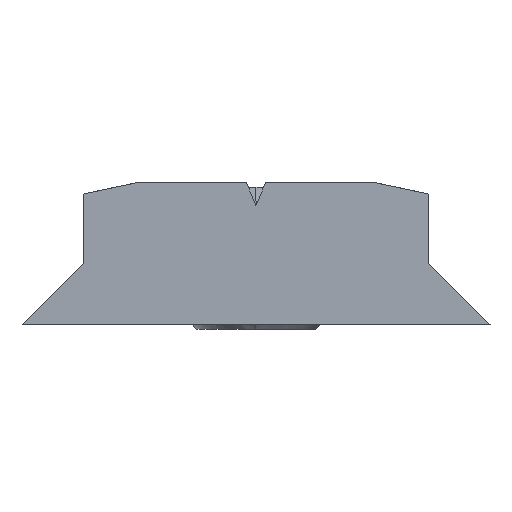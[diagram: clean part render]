
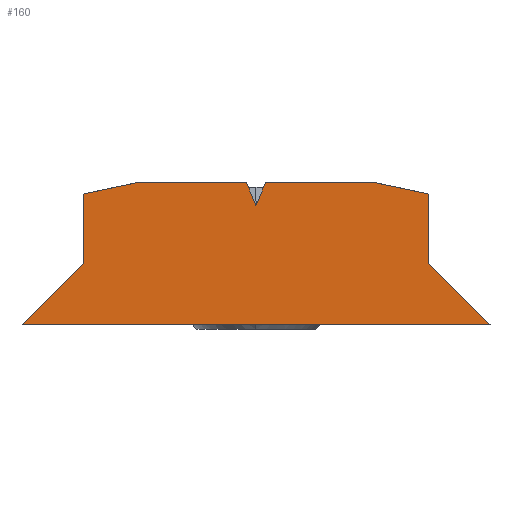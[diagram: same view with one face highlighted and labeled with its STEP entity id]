
A CAD part, left-side view. The second image highlights one B-rep face of the part: STEP entity #160.
In plain terms, the highlighted planar face has unit normal (-1, 0, 0).
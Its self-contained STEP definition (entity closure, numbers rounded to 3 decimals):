
#160=ADVANCED_FACE('Pad.1',(#376),#377,.T.);
#376=FACE_OUTER_BOUND('',#667,.T.);
#377=PLANE('',#668);
#667=EDGE_LOOP('',(#1030,#1031,#1032,#1033,#1034,#1035,#1036,#1037,#1038,#1039,#1040));
#668=AXIS2_PLACEMENT_3D('',#1041,#1042,#1043);
#1030=ORIENTED_EDGE('',*,*,#1800,.T.);
#1031=ORIENTED_EDGE('',*,*,#1797,.T.);
#1032=ORIENTED_EDGE('',*,*,#1792,.T.);
#1033=ORIENTED_EDGE('',*,*,#1801,.T.);
#1034=ORIENTED_EDGE('',*,*,#1802,.T.);
#1035=ORIENTED_EDGE('',*,*,#1803,.T.);
#1036=ORIENTED_EDGE('',*,*,#1804,.T.);
#1037=ORIENTED_EDGE('',*,*,#1805,.T.);
#1038=ORIENTED_EDGE('',*,*,#1806,.T.);
#1039=ORIENTED_EDGE('',*,*,#1807,.T.);
#1040=ORIENTED_EDGE('',*,*,#1808,.T.);
#1041=CARTESIAN_POINT('',(0.0,0.0,0.0));
#1042=DIRECTION('',(-1.0,0.0,0.0));
#1043=DIRECTION('',(0.0,-1.0,0.0));
#1792=EDGE_CURVE('',#2166,#2171,#2173,.T.);
#1797=EDGE_CURVE('',#2179,#2166,#2180,.T.);
#1800=EDGE_CURVE('',#2183,#2179,#2184,.T.);
#1801=EDGE_CURVE('',#2171,#2185,#2186,.T.);
#1802=EDGE_CURVE('',#2185,#2187,#2188,.T.);
#1803=EDGE_CURVE('',#2187,#2189,#2190,.F.);
#1804=EDGE_CURVE('',#2189,#2191,#2192,.F.);
#1805=EDGE_CURVE('',#2191,#2193,#2194,.F.);
#1806=EDGE_CURVE('',#2193,#2195,#2196,.T.);
#1807=EDGE_CURVE('',#2195,#2197,#2198,.T.);
#1808=EDGE_CURVE('',#2197,#2183,#2199,.T.);
#2166=VERTEX_POINT('',#2741);
#2171=VERTEX_POINT('',#2748);
#2173=LINE('',#2751,#2752);
#2179=VERTEX_POINT('',#2761);
#2180=LINE('',#2762,#2763);
#2183=VERTEX_POINT('',#2767);
#2184=LINE('',#2768,#2769);
#2185=VERTEX_POINT('',#2770);
#2186=LINE('',#2771,#2772);
#2187=VERTEX_POINT('',#2773);
#2188=LINE('',#2774,#2775);
#2189=VERTEX_POINT('',#2776);
#2190=LINE('',#2777,#2778);
#2191=VERTEX_POINT('',#2779);
#2192=LINE('',#2780,#2781);
#2193=VERTEX_POINT('',#2782);
#2194=LINE('',#2783,#2784);
#2195=VERTEX_POINT('',#2785);
#2196=LINE('',#2786,#2787);
#2197=VERTEX_POINT('',#2788);
#2198=LINE('',#2789,#2790);
#2199=LINE('',#2791,#2792);
#2741=CARTESIAN_POINT('',(0.0,3.65,11.461));
#2748=CARTESIAN_POINT('',(0.0,3.65,10.0));
#2751=CARTESIAN_POINT('',(0.0,3.65,10.73));
#2752=VECTOR('',#3387,1.0);
#2761=CARTESIAN_POINT('',(0.0,2.525,11.7));
#2762=CARTESIAN_POINT('',(0.0,3.088,11.58));
#2763=VECTOR('',#3391,1.0);
#2767=CARTESIAN_POINT('',(0.0,0.2,11.7));
#2768=CARTESIAN_POINT('',(0.0,1.363,11.7));
#2769=VECTOR('',#3393,1.0);
#2770=CARTESIAN_POINT('',(0.0,4.95,8.7));
#2771=CARTESIAN_POINT('',(0.0,4.3,9.35));
#2772=VECTOR('',#3394,1.0);
#2773=CARTESIAN_POINT('',(0.0,-4.95,8.7));
#2774=CARTESIAN_POINT('',(0.0,0.,8.7));
#2775=VECTOR('',#3395,1.0);
#2776=CARTESIAN_POINT('',(0.0,-3.65,10.));
#2777=CARTESIAN_POINT('',(0.0,-4.3,9.35));
#2778=VECTOR('',#3396,1.0);
#2779=CARTESIAN_POINT('',(0.0,-3.65,11.461));
#2780=CARTESIAN_POINT('',(0.0,-3.65,10.73));
#2781=VECTOR('',#3397,1.0);
#2782=CARTESIAN_POINT('',(0.0,-2.525,11.7));
#2783=CARTESIAN_POINT('',(0.0,-3.088,11.58));
#2784=VECTOR('',#3398,1.0);
#2785=CARTESIAN_POINT('',(0.0,-0.2,11.7));
#2786=CARTESIAN_POINT('',(0.0,-1.363,11.7));
#2787=VECTOR('',#3399,1.0);
#2788=CARTESIAN_POINT('',(0.0,0.,11.217));
#2789=CARTESIAN_POINT('',(0.0,-0.1,11.459));
#2790=VECTOR('',#3400,1.0);
#2791=CARTESIAN_POINT('',(0.0,0.1,11.459));
#2792=VECTOR('',#3401,1.0);
#3387=DIRECTION('',(0.0,0.0,-1.0));
#3391=DIRECTION('',(0.0,0.978,-0.208));
#3393=DIRECTION('',(0.0,1.0,0.0));
#3394=DIRECTION('',(0.0,0.707,-0.707));
#3395=DIRECTION('',(0.0,-1.0,0.0));
#3396=DIRECTION('',(0.0,-0.707,-0.707));
#3397=DIRECTION('',(0.0,0.0,-1.0));
#3398=DIRECTION('',(0.0,-0.978,-0.208));
#3399=DIRECTION('',(0.0,1.0,0.0));
#3400=DIRECTION('',(0.0,0.383,-0.924));
#3401=DIRECTION('',(0.0,0.383,0.924));
